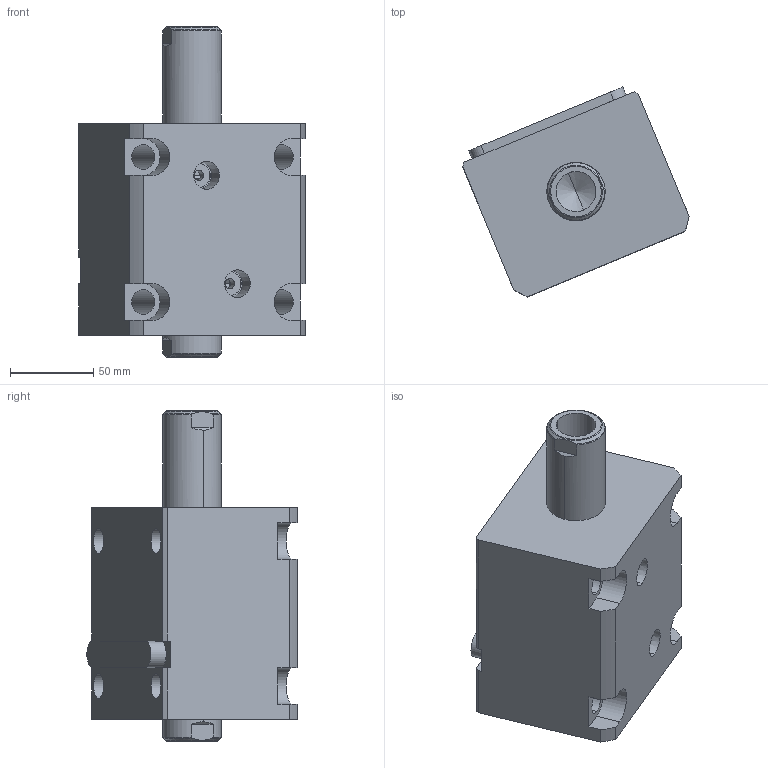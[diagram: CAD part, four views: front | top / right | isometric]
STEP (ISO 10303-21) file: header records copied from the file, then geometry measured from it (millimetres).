
FILE_DESCRIPTION (( 'STEP AP214' ), '1' );
FILE_NAME ('chtb-lw63x45n_asm.STEP', '2018-05-03T07:28:52', ( 'Windows' ), ( 'Microsoft' ), 'SwSTEP 2.0', 'SolidWorks 2015', '' );
FILE_SCHEMA (( 'AUTOMOTIVE_DESIGN' ));
Length unit declared in the file: millimetre
Products named in the file (5): CHTB-63QG; chtb-lw63x45n_asm; CHTB-SW63X45NHSG; CHTB-LW63X45NBT; CHTB-LA63PJ
Assembly tree (4 placements, depth 2):
  chtb-lw63x45n_asm
    CHTB-63QG
    CHTB-LA63PJ
    CHTB-LW63X45NBT
    CHTB-SW63X45NHSG
Bounding box: 135.77 x 126.06 x 198 mm (x, y, z)
Volume: 1158801.4 mm3; surface area: 167311.2 mm2
Topology: 4 solids, 4 shells, 194 faces, 563 edges, 381 vertices
Faces by surface type: cylinder 104, plane 50, cone 16, bspline 12, torus 12
Entity records: 18887 total; most frequent: CARTESIAN_POINT 13868, ORIENTED_EDGE 1110, DIRECTION 876, EDGE_CURVE 555, VERTEX_POINT 381, AXIS2_PLACEMENT_3D 336, EDGE_LOOP 222, VECTOR 204
